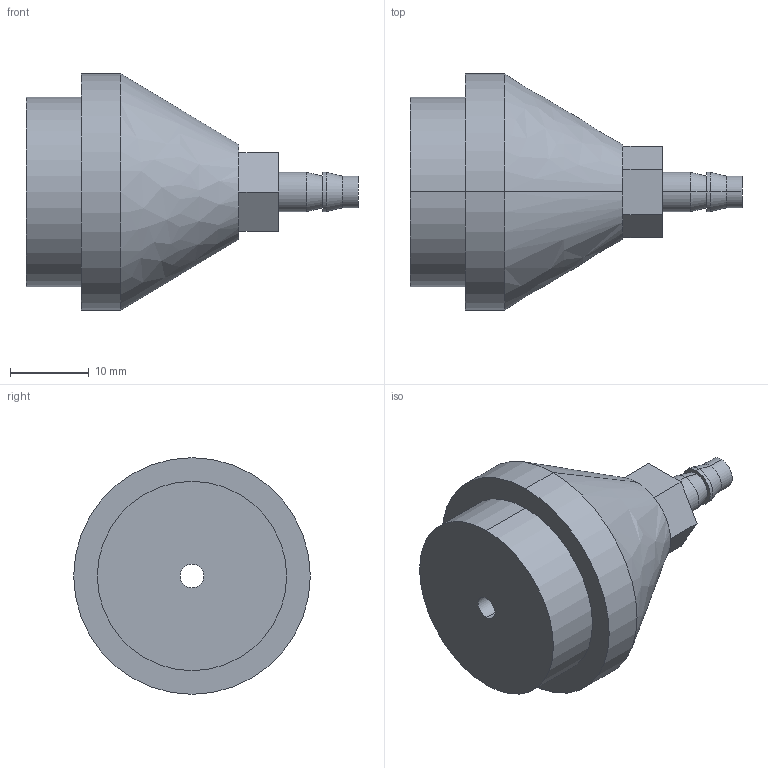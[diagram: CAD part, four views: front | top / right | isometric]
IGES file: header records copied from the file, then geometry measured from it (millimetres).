
Start section: SolidWorks IGES FILE using analytic representation for surfaces
Global section: file name: \\intra-srv04\開発データ\CAD_Data\CAD委員会\3D電子ｶﾀﾛｸﾞ\製品カタログ（新）\0_IGES\ER-ASTD.IGS,41HSolidWorks 2004; native system: by SolidWorks Corporation; preprocessor: Version 5.3; author: mf1158; date: 050905.161613; units: millimetre
Bounding box: 42.1 x 30 x 30 mm (x, y, z)
Volume: 12519.5 mm3; surface area: 3676.7 mm2
Topology: 1 solids, 1 shells, 30 faces, 64 edges, 40 vertices
Faces by surface type: revolution 18, plane 12
